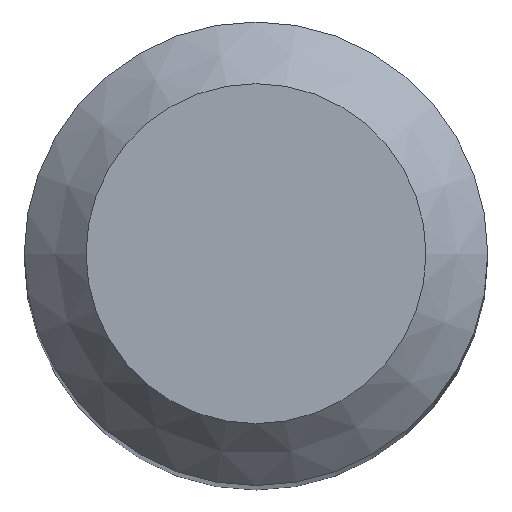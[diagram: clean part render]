
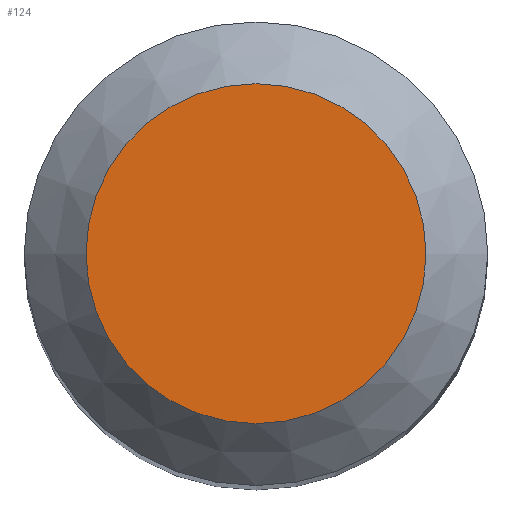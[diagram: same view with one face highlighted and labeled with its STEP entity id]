
A CAD part, top view. The second image highlights one B-rep face of the part: STEP entity #124.
In plain terms, the highlighted planar face has unit normal (0, 0, 1).
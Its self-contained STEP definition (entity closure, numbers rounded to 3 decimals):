
#108=CARTESIAN_POINT('',(2.2,0.0,50.0));
#109=DIRECTION('',(0.0,0.0,1.0));
#110=DIRECTION('',(1.0,0.0,0.0));
#111=AXIS2_PLACEMENT_3D('',#108,#109,#110);
#112=PLANE('',#111);
#113=CARTESIAN_POINT('',(-2.2,0.0,50.));
#114=VERTEX_POINT('',#113);
#115=CARTESIAN_POINT('',(0.0,0.0,50.));
#116=DIRECTION('',(0.0,0.0,-1.0));
#117=DIRECTION('',(-1.0,0.0,0.0));
#118=AXIS2_PLACEMENT_3D('',#115,#116,#117);
#119=CIRCLE('',#118,2.2);
#120=EDGE_CURVE('',#114,#114,#119,.T.);
#121=ORIENTED_EDGE('',*,*,#120,.F.);
#122=EDGE_LOOP('',(#121));
#123=FACE_OUTER_BOUND('',#122,.T.);
#124=ADVANCED_FACE('',(#123),#112,.T.);
